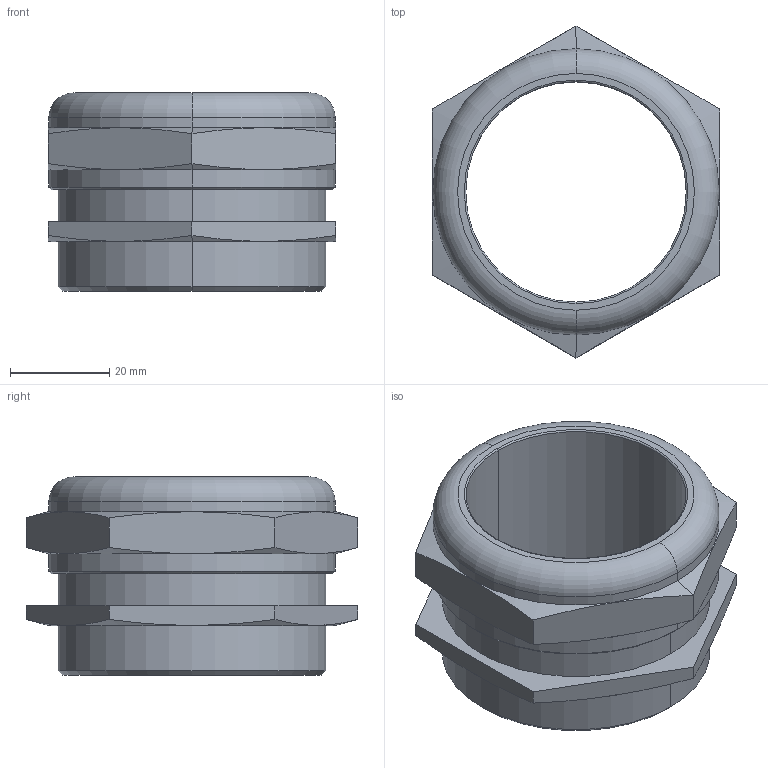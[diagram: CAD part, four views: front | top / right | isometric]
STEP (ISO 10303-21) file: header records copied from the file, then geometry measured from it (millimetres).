
FILE_DESCRIPTION (( 'STEP AP203' ), '1' );
FILE_NAME ('101042.STEP', '2006-10-04T11:29:54', ( ' ' ), ( '' ), 'SwSTEP 2.0', 'SolidWorks 2005278', '' );
FILE_SCHEMA (( 'CONFIG_CONTROL_DESIGN' ));
Length unit declared in the file: millimetre
Products named in the file (1): 101042
Bounding box: 58 x 66.97 x 40 mm (x, y, z)
Volume: 39508.1 mm3; surface area: 16069 mm2
Topology: 1 solids, 1 shells, 78 faces, 192 edges, 122 vertices
Faces by surface type: plane 54, cone 10, cylinder 10, torus 4
Entity records: 2461 total; most frequent: CARTESIAN_POINT 543, ORIENTED_EDGE 384, DIRECTION 366, EDGE_CURVE 192, VECTOR 140, LINE 140, VERTEX_POINT 122, AXIS2_PLACEMENT_3D 113
